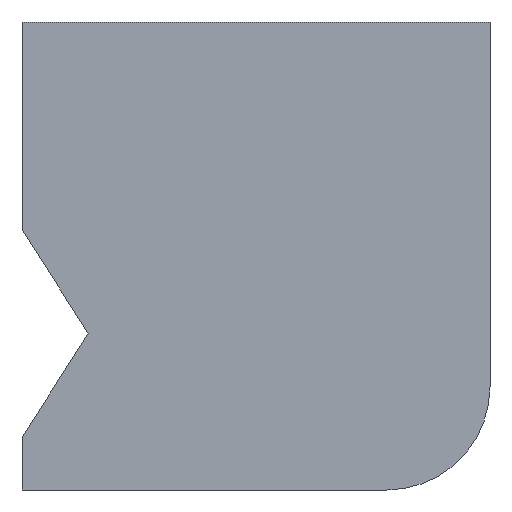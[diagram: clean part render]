
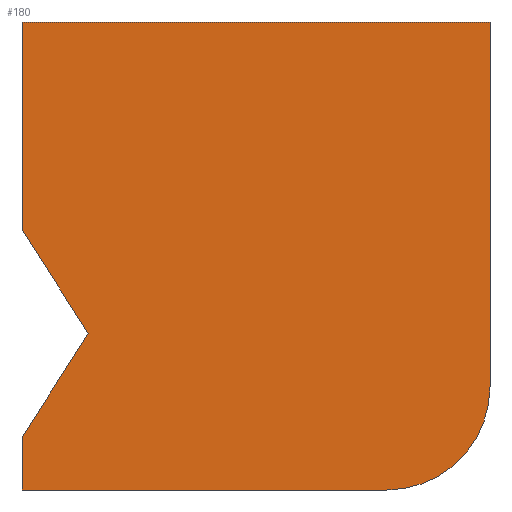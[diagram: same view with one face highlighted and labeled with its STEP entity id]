
A CAD part, left-side view. The second image highlights one B-rep face of the part: STEP entity #180.
In plain terms, the highlighted planar face has unit normal (-1, 0, 0).
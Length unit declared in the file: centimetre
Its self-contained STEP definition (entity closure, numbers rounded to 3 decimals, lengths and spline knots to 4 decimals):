
#6 = LINE ( 'NONE', #161, #577 ) ;
#8 = ORIENTED_EDGE ( 'NONE', *, *, #196, .F. ) ;
#24 = ORIENTED_EDGE ( 'NONE', *, *, #348, .T. ) ;
#27 = VERTEX_POINT ( 'NONE', #546 ) ;
#57 = VECTOR ( 'NONE', #187, 100. ) ;
#68 = VERTEX_POINT ( 'NONE', #276 ) ;
#73 = VERTEX_POINT ( 'NONE', #453 ) ;
#76 = EDGE_CURVE ( 'NONE', #537, #73, #129, .T. ) ;
#78 = DIRECTION ( 'NONE',  ( 0., 0., -1. ) ) ;
#81 = AXIS2_PLACEMENT_3D ( 'NONE', #307, #247, #669 ) ;
#103 = CARTESIAN_POINT ( 'NONE',  ( 0., 1000., 0. ) ) ;
#104 = EDGE_CURVE ( 'NONE', #221, #27, #410, .T. ) ;
#120 = CARTESIAN_POINT ( 'NONE',  ( 0., 1000., 0. ) ) ;
#129 = LINE ( 'NONE', #120, #57 ) ;
#134 = CARTESIAN_POINT ( 'NONE',  ( 0., 1000., 1000. ) ) ;
#135 = VECTOR ( 'NONE', #616, 100. ) ;
#152 = LINE ( 'NONE', #415, #426 ) ;
#160 = AXIS2_PLACEMENT_3D ( 'NONE', #603, #343, #78 ) ;
#161 = CARTESIAN_POINT ( 'NONE',  ( 0., 1000., 1000. ) ) ;
#180 = ADVANCED_FACE ( 'NONE', ( #258 ), #356, .F. ) ;
#187 = DIRECTION ( 'NONE',  ( 0., -1., 0. ) ) ;
#191 = CARTESIAN_POINT ( 'NONE',  ( 0., 858.5626, 334.5597 ) ) ;
#194 = DIRECTION ( 'NONE',  ( 0., 0., -1. ) ) ;
#196 = EDGE_CURVE ( 'NONE', #542, #427, #152, .T. ) ;
#221 = VERTEX_POINT ( 'NONE', #359 ) ;
#228 = ORIENTED_EDGE ( 'NONE', *, *, #408, .T. ) ;
#245 = LINE ( 'NONE', #661, #365 ) ;
#247 = DIRECTION ( 'NONE',  ( 1., 0., 0. ) ) ;
#258 = FACE_OUTER_BOUND ( 'NONE', #374, .T. ) ;
#259 = CARTESIAN_POINT ( 'NONE',  ( 0., 0., 1000. ) ) ;
#262 = DIRECTION ( 'NONE',  ( 0., -1., 0. ) ) ;
#266 = VECTOR ( 'NONE', #194, 100. ) ;
#276 = CARTESIAN_POINT ( 'NONE',  ( 0., 1000., 556.7748 ) ) ;
#281 = CIRCLE ( 'NONE', #160, 220.6099 ) ;
#307 = CARTESIAN_POINT ( 'NONE',  ( 0., 1000., 1000. ) ) ;
#313 = ORIENTED_EDGE ( 'NONE', *, *, #76, .T. ) ;
#317 = VERTEX_POINT ( 'NONE', #336 ) ;
#336 = CARTESIAN_POINT ( 'NONE',  ( 0., 1000., 1000. ) ) ;
#343 = DIRECTION ( 'NONE',  ( -1., 0., 0. ) ) ;
#348 = EDGE_CURVE ( 'NONE', #73, #427, #281, .T. ) ;
#356 = PLANE ( 'NONE',  #81 ) ;
#359 = CARTESIAN_POINT ( 'NONE',  ( 0., 1000., 112.3445 ) ) ;
#365 = VECTOR ( 'NONE', #561, 100. ) ;
#374 = EDGE_LOOP ( 'NONE', ( #637, #534, #428, #228, #313, #24, #8, #477 ) ) ;
#408 = EDGE_CURVE ( 'NONE', #221, #537, #245, .T. ) ;
#410 = LINE ( 'NONE', #523, #135 ) ;
#415 = CARTESIAN_POINT ( 'NONE',  ( 0., 0., 1000. ) ) ;
#426 = VECTOR ( 'NONE', #566, 100. ) ;
#427 = VERTEX_POINT ( 'NONE', #671 ) ;
#428 = ORIENTED_EDGE ( 'NONE', *, *, #104, .F. ) ;
#429 = EDGE_CURVE ( 'NONE', #317, #68, #615, .T. ) ;
#446 = EDGE_CURVE ( 'NONE', #27, #68, #506, .T. ) ;
#453 = CARTESIAN_POINT ( 'NONE',  ( 0., 220.6099, 0. ) ) ;
#477 = ORIENTED_EDGE ( 'NONE', *, *, #573, .F. ) ;
#506 = LINE ( 'NONE', #191, #639 ) ;
#523 = CARTESIAN_POINT ( 'NONE',  ( 0., 1000., 112.3445 ) ) ;
#534 = ORIENTED_EDGE ( 'NONE', *, *, #446, .F. ) ;
#537 = VERTEX_POINT ( 'NONE', #103 ) ;
#542 = VERTEX_POINT ( 'NONE', #259 ) ;
#546 = CARTESIAN_POINT ( 'NONE',  ( 0., 858.5626, 334.5597 ) ) ;
#561 = DIRECTION ( 'NONE',  ( 0., 0., -1. ) ) ;
#566 = DIRECTION ( 'NONE',  ( 0., 0., -1. ) ) ;
#573 = EDGE_CURVE ( 'NONE', #317, #542, #6, .T. ) ;
#577 = VECTOR ( 'NONE', #262, 100. ) ;
#603 = CARTESIAN_POINT ( 'NONE',  ( 0., 220.6099, 220.6099 ) ) ;
#604 = DIRECTION ( 'NONE',  ( 0., 0.537, 0.844 ) ) ;
#615 = LINE ( 'NONE', #134, #266 ) ;
#616 = DIRECTION ( 'NONE',  ( 0., -0.537, 0.844 ) ) ;
#637 = ORIENTED_EDGE ( 'NONE', *, *, #429, .T. ) ;
#639 = VECTOR ( 'NONE', #604, 100. ) ;
#661 = CARTESIAN_POINT ( 'NONE',  ( 0., 1000., 1000. ) ) ;
#669 = DIRECTION ( 'NONE',  ( 0., 0., -1. ) ) ;
#671 = CARTESIAN_POINT ( 'NONE',  ( 0., 0., 220.6099 ) ) ;
